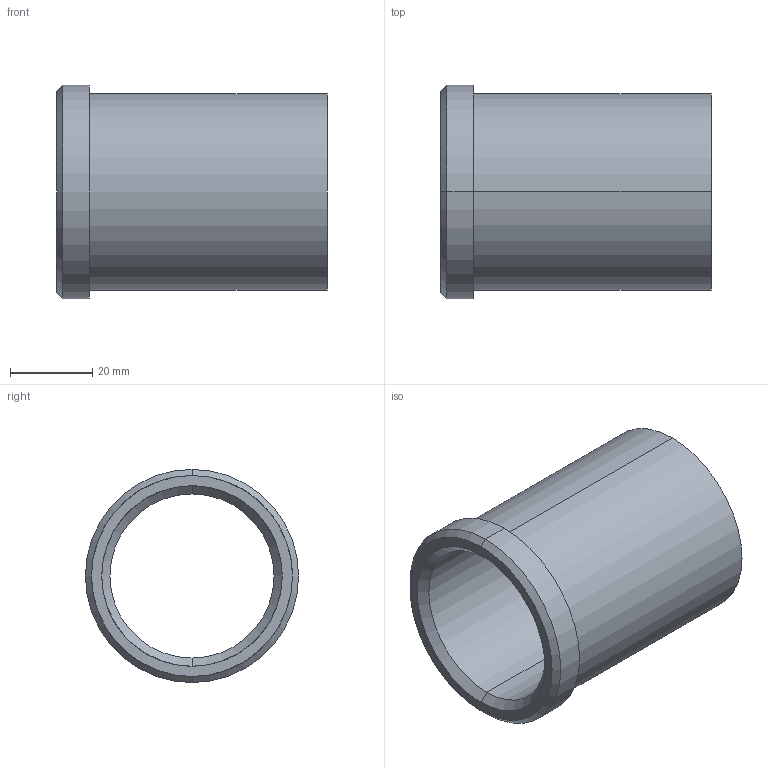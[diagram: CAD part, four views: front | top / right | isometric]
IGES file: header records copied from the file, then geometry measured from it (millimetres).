
Start section: START RECORD GO HERE.
Global section: file name: 353-40X66.igs; native system: DASSAULT SYSTEMES CATIA V5 R20 - www.3ds.com; preprocessor: CATIA Version 5 Release 20 ; author: Utente; organization: NB04-ASUS; date: 20210513.202524; units: millimetre
Bounding box: 66 x 52 x 52 mm (x, y, z)
Surface area: 19686.5 mm2 (no closed solid volume)
Topology: 0 solids, 0 shells, 15 faces, 96 edges, 96 vertices
Faces by surface type: revolution 12, plane 3
